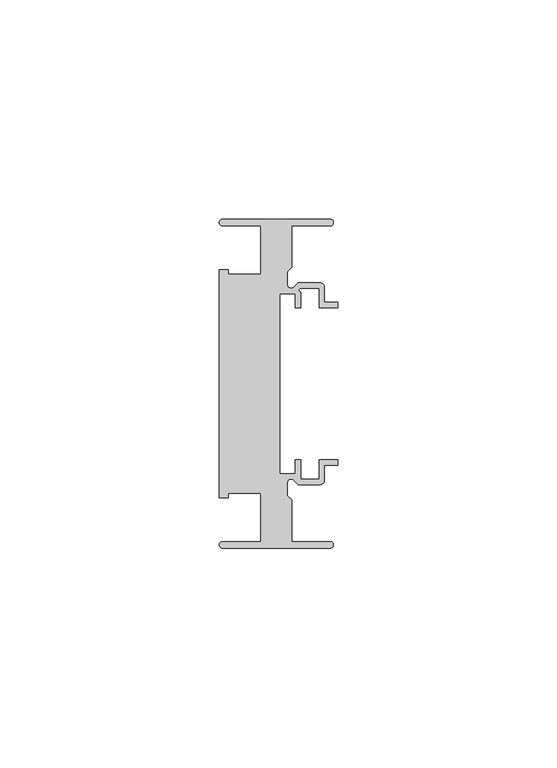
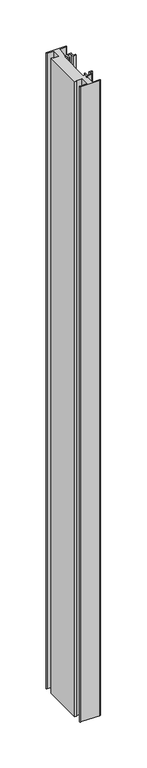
"""IFC4 building model written with IfcOpenShell, lengths in millimetres: member geometry, Прямоугольный импост : 7-AMG-2-Профиль 26Х75 Верх П."""

from ifc_helpers import new_model, si_unit, point, frame, frame_2d, origin, place, context, project, spatial, polyline, circle_curve, trimmed, segment, composite_curve, outline, extrude, source, transform, mapped, element, save


def member_fc7df160(model_context):
    return source(origin(), model_context, "Body", "SweptSolid", [
        extrude(outline(composite_curve([segment(polyline([(-1.7, -37.5), (-26.25, -37.5)]), True, "CONTINUOUS"), segment(trimmed(circle_curve(frame_2d((-26.25, -36.75)), 0.75), [point((-26.25, -37.5))], [point((-26.25, -36.0))], False, "CARTESIAN"), True, "CONTINUOUS"), segment(polyline([(-26.25, -36.0), (-17.5, -36.0), (-17.5, -25.0), (-24.9359877, -25.0), (-24.9359877, -26.0), (-27.0, -26.0), (-27.0, 26.0), (-24.9359877, 26.0), (-24.9359877, 25.0), (-17.5, 25.0), (-17.5, 36.0), (-26.25, 36.0)]), True, "CONTINUOUS"), segment(trimmed(circle_curve(frame_2d((-26.25, 36.75)), 0.75), [point((-26.25, 36.0))], [point((-26.25, 37.5))], False, "CARTESIAN"), True, "CONTINUOUS"), segment(polyline([(-26.25, 37.5), (-1.7, 37.5)]), True, "CONTINUOUS"), segment(trimmed(circle_curve(frame_2d((-1.7, 36.75)), 0.75), [point((-1.7, 37.5))], [point((-1.7, 36.0))], False, "CARTESIAN"), True, "CONTINUOUS"), segment(polyline([(-1.7, 36.0), (-10.5, 36.0), (-10.5, 26.5029437), (-11.5, 25.5029437), (-11.5, 22.6727922)]), True, "CONTINUOUS"), segment(trimmed(circle_curve(frame_2d((-10.6, 22.6727922)), 0.9), [point((-11.5, 22.6727922))], [point((-9.9636039, 22.0363961))], True, "CARTESIAN"), True, "CONTINUOUS"), segment(polyline([(-9.9636039, 22.0363961), (-9.0, 23.0), (-4.0, 23.0)]), True, "CONTINUOUS"), segment(trimmed(circle_curve(frame_2d((-4.0, 22.0)), 1.0), [point((-4.0, 23.0))], [point((-3.0, 22.0))], False, "CARTESIAN"), True, "CONTINUOUS"), segment(polyline([(-3.0, 22.0), (-3.0, 18.55), (0.0, 18.55), (0.0, 17.35), (-4.2, 17.35), (-4.2, 21.8), (-8.5029437, 21.8)]), True, "CONTINUOUS"), segment(trimmed(circle_curve(frame_2d((-8.3343131, 21.3314262)), 0.4979937), [point((-8.5029437, 21.8))], [point((-8.45, 20.8470563))], True, "CARTESIAN"), True, "CONTINUOUS"), segment(polyline([(-8.45, 20.8470563), (-8.45, 17.35), (-9.65, 17.35), (-9.65, 20.55), (-13.15, 20.55), (-13.15, -20.55), (-9.65, -20.55), (-9.65, -17.35), (-8.45, -17.35), (-8.45, -21.8), (-4.2, -21.8), (-4.2, -17.35), (0.0, -17.35), (0.0, -18.55), (-3.0, -18.55), (-3.0, -22.0)]), True, "CONTINUOUS"), segment(trimmed(circle_curve(frame_2d((-4.0, -22.0)), 1.0), [point((-3.0, -22.0))], [point((-4.0, -23.0))], False, "CARTESIAN"), True, "CONTINUOUS"), segment(polyline([(-4.0, -23.0), (-9.0, -23.0), (-9.9636039, -22.0363961)]), True, "CONTINUOUS"), segment(trimmed(circle_curve(frame_2d((-10.6, -22.6727922)), 0.9), [point((-9.9636039, -22.0363961))], [point((-11.5, -22.6727922))], True, "CARTESIAN"), True, "CONTINUOUS"), segment(polyline([(-11.5, -22.6727922), (-11.5, -25.5029437), (-10.5, -26.5029437), (-10.5, -36.0), (-1.7, -36.0)]), True, "CONTINUOUS"), segment(trimmed(circle_curve(frame_2d((-1.7, -36.75)), 0.75), [point((-1.7, -36.0))], [point((-1.7, -37.5))], False, "CARTESIAN"), True, "CONTINUOUS")], self_intersect=False)), frame((0.0, 0.0, -846.0), z_axis=(0.0, 0.0, 1.0), x_axis=(1.0, 0.0, 0.0)), (0.0, 0.0, 1.0), 846.0),
    ])


if __name__ == "__main__":
    model = new_model("IFC4")
    model_context = context("Model", 3, world=origin())
    ifc_project = project(units=[si_unit("LENGTHUNIT", "METRE", prefix="MILLI")], contexts=[model_context])
    site = spatial("IfcSite", under=ifc_project)
    building = spatial("IfcBuilding", under=site)
    placement = place(None, origin())
    member_shape = member_fc7df160(model_context)
    element("IfcMember", 1, ObjectType="Прямоугольный импост : 7-AMG-2-Профиль 26Х75 Верх П", at=placement, inside=building, context=model_context, shape_type="MappedRepresentation", body=[
        mapped(member_shape, transform((0.0, 0.0, 0.0), x_axis=(1.0, 0.0, 0.0), y_axis=(0.0, 1.0, 0.0), z_axis=(0.0, 0.0, 1.0))),
    ])
    save(model, "model.ifc")
